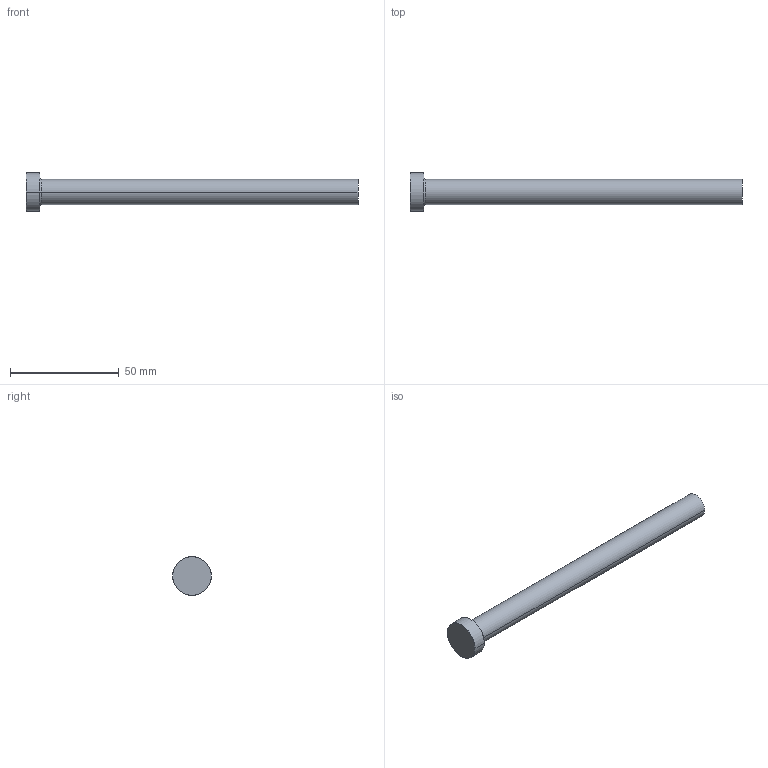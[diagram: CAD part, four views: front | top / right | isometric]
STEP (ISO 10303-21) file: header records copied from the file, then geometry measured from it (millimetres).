
FILE_DESCRIPTION (( 'STEP AP214' ), '1' );
FILE_NAME ('P30-6.STEP', '2020-03-12T10:31:12', ( '' ), ( '' ), 'SwSTEP 2.0', 'SolidWorks 2018', '' );
FILE_SCHEMA (( 'AUTOMOTIVE_DESIGN' ));
Length unit declared in the file: inch
Products named in the file (1): P30-6
Bounding box: 152.4 x 17.86 x 17.86 mm (x, y, z)
Volume: 16769.5 mm3; surface area: 6116.4 mm2
Topology: 1 solids, 1 shells, 13 faces, 24 edges, 14 vertices
Faces by surface type: cone 4, cylinder 4, plane 3, torus 2
Entity records: 366 total; most frequent: DIRECTION 68, CARTESIAN_POINT 52, ORIENTED_EDGE 48, AXIS2_PLACEMENT_3D 30, EDGE_CURVE 24, CIRCLE 16, VERTEX_POINT 14, EDGE_LOOP 14
